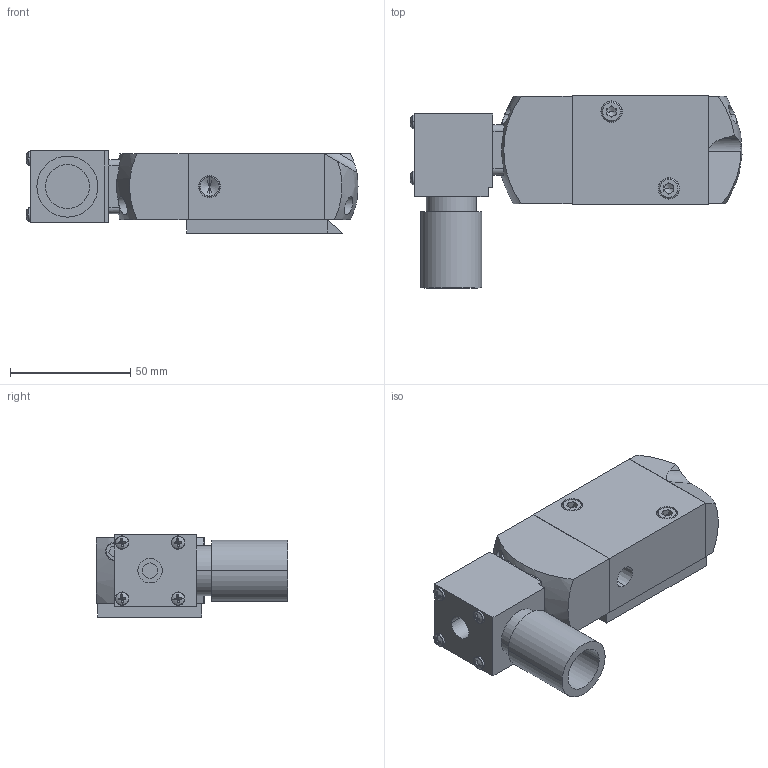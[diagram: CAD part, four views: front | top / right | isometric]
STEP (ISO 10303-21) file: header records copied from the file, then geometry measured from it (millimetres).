
FILE_DESCRIPTION (( 'STEP AP214' ), '1' );
FILE_NAME ('TVC6-X411-7N-XXX.STEP', '2025-05-08T14:51:48', ( '' ), ( '' ), 'SwSTEP 2.0', 'SolidWorks 2023', '' );
FILE_SCHEMA (( 'AUTOMOTIVE_DESIGN' ));
Length unit declared in the file: inch
Products named in the file (1): TVC6-X411-7N-XXX
Bounding box: 138.19 x 79.9 x 34.2 mm (x, y, z)
Volume: 170491.2 mm3; surface area: 41890 mm2
Topology: 13 solids, 13 shells, 355 faces, 799 edges, 490 vertices
Faces by surface type: plane 187, cylinder 104, cone 42, torus 12, sphere 8, bspline 2
Entity records: 10398 total; most frequent: CARTESIAN_POINT 2141, DIRECTION 1797, ORIENTED_EDGE 1558, EDGE_CURVE 779, AXIS2_PLACEMENT_3D 690, VERTEX_POINT 490, VECTOR 417, LINE 417
